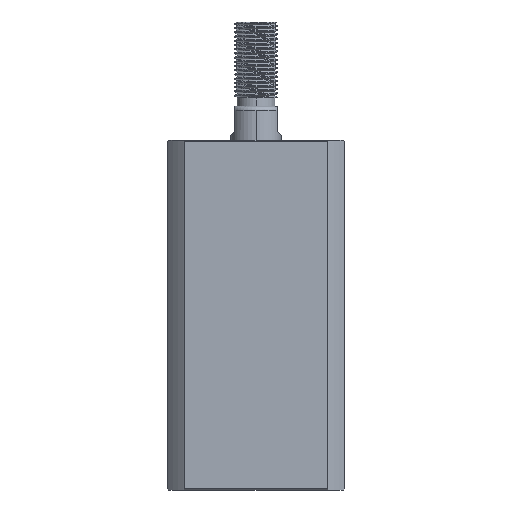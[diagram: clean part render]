
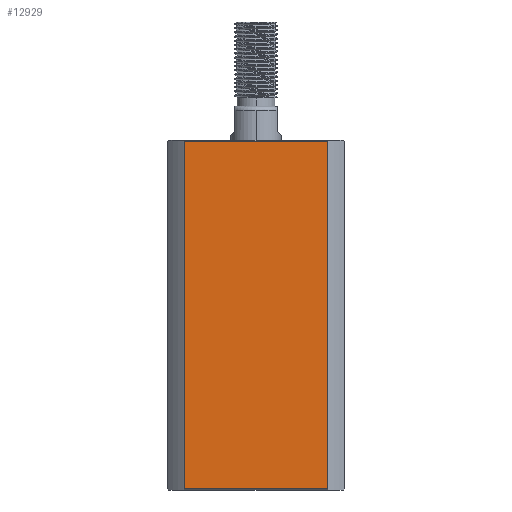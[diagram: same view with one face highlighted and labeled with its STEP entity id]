
A CAD part, left-side view. The second image highlights one B-rep face of the part: STEP entity #12929.
In plain terms, the highlighted planar face has unit normal (-1, 0, 0).
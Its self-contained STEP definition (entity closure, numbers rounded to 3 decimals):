
#43 = LINE ( 'NONE', #939, #11926 ) ;
#487 = DIRECTION ( 'NONE',  ( 0., -1., 0. ) ) ;
#640 = VERTEX_POINT ( 'NONE', #3806 ) ;
#758 = CARTESIAN_POINT ( 'NONE',  ( -21., 16.971, 0.3 ) ) ;
#939 = CARTESIAN_POINT ( 'NONE',  ( -21., 16.971, -92. ) ) ;
#1288 = VECTOR ( 'NONE', #9498, 1000. ) ;
#2059 = DIRECTION ( 'NONE',  ( 0., 0., 1. ) ) ;
#2379 = ORIENTED_EDGE ( 'NONE', *, *, #8043, .F. ) ;
#2925 = LINE ( 'NONE', #13188, #11032 ) ;
#3266 = DIRECTION ( 'NONE',  ( 1., 0., 0. ) ) ;
#3806 = CARTESIAN_POINT ( 'NONE',  ( -21., 16.971, 82.7 ) ) ;
#3831 = CARTESIAN_POINT ( 'NONE',  ( -21., 21., 82.7 ) ) ;
#4148 = LINE ( 'NONE', #14630, #13007 ) ;
#5421 = VERTEX_POINT ( 'NONE', #758 ) ;
#6566 = EDGE_LOOP ( 'NONE', ( #2379, #11794, #11053, #11421 ) ) ;
#6710 = EDGE_CURVE ( 'NONE', #5421, #8732, #2925, .T. ) ;
#7718 = LINE ( 'NONE', #3831, #1288 ) ;
#8043 = EDGE_CURVE ( 'NONE', #5421, #640, #43, .T. ) ;
#8732 = VERTEX_POINT ( 'NONE', #14668 ) ;
#8983 = CARTESIAN_POINT ( 'NONE',  ( -21., 21., 83. ) ) ;
#9317 = EDGE_CURVE ( 'NONE', #13175, #640, #7718, .T. ) ;
#9498 = DIRECTION ( 'NONE',  ( 0., 1., 0. ) ) ;
#11032 = VECTOR ( 'NONE', #487, 1000. ) ;
#11043 = FACE_OUTER_BOUND ( 'NONE', #6566, .T. ) ;
#11053 = ORIENTED_EDGE ( 'NONE', *, *, #13793, .F. ) ;
#11332 = DIRECTION ( 'NONE',  ( 0., 1., 0. ) ) ;
#11421 = ORIENTED_EDGE ( 'NONE', *, *, #9317, .T. ) ;
#11747 = CARTESIAN_POINT ( 'NONE',  ( -21., -16.971, 82.7 ) ) ;
#11794 = ORIENTED_EDGE ( 'NONE', *, *, #6710, .T. ) ;
#11926 = VECTOR ( 'NONE', #2059, 1000. ) ;
#12929 = ADVANCED_FACE ( 'NONE', ( #11043 ), #14772, .F. ) ;
#13007 = VECTOR ( 'NONE', #13513, 1000. ) ;
#13175 = VERTEX_POINT ( 'NONE', #11747 ) ;
#13188 = CARTESIAN_POINT ( 'NONE',  ( -21., 21., 0.3 ) ) ;
#13388 = AXIS2_PLACEMENT_3D ( 'NONE', #8983, #3266, #11332 ) ;
#13513 = DIRECTION ( 'NONE',  ( 0., 0., -1. ) ) ;
#13793 = EDGE_CURVE ( 'NONE', #13175, #8732, #4148, .T. ) ;
#14630 = CARTESIAN_POINT ( 'NONE',  ( -21., -16.971, -92. ) ) ;
#14668 = CARTESIAN_POINT ( 'NONE',  ( -21., -16.971, 0.3 ) ) ;
#14772 = PLANE ( 'NONE',  #13388 ) ;
